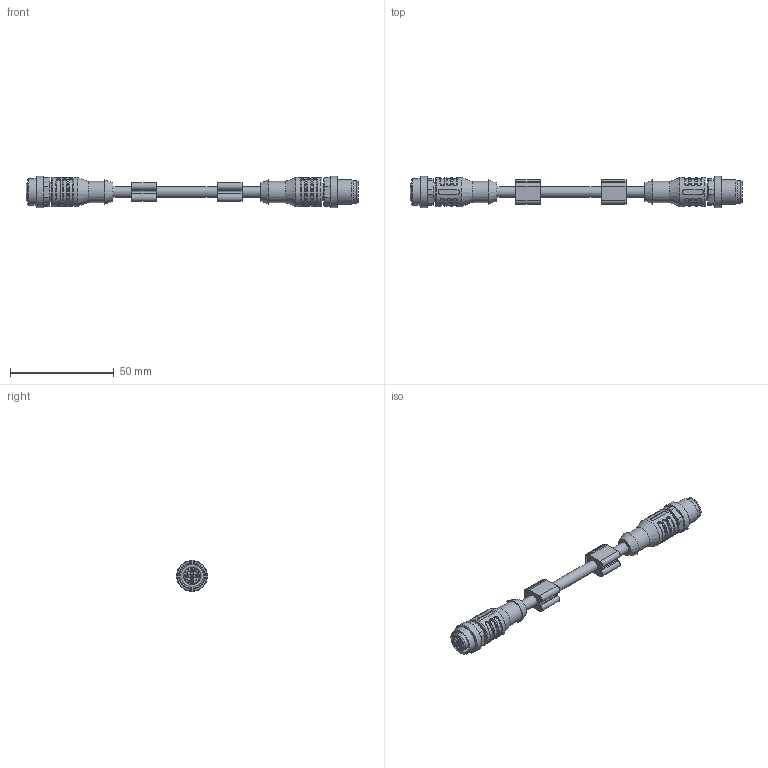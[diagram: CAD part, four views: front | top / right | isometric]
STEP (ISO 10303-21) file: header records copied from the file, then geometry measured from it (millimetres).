
FILE_DESCRIPTION(/* description */ (''),/* implementation_level */ '2;1');
FILE_NAME(/* name */ 'C:\#Vault-WorkDir\Konstruktions-Dokumente\Projekte\Zubehör allgemein\153-13639_L4_L4-xM-PUR.stp',/* time_stamp */ '2019-11-05T08:59:25+01:00',/* author */ ('SensoPart'),/* organization */ ('SensoPart'),/* preprocessor_version */ 'ST-DEVELOPER v17',/* originating_system */ 'Autodesk Inventor 2018',/* authorisation */ '');
FILE_SCHEMA (('AUTOMOTIVE_DESIGN { 1 0 10303 214 3 1 1 }'));
Length unit declared in the file: millimetre
Products named in the file (1): GH-ENG-0030270
Bounding box: 160 x 15 x 15 mm (x, y, z)
Volume: 12976.4 mm3; surface area: 7743.8 mm2
Topology: 1 solids, 1 shells, 578 faces, 1474 edges, 950 vertices
Faces by surface type: plane 199, cylinder 173, bspline 111, torus 63, cone 28, sphere 4
Full cylindrical faces by diameter (mm): 1 x4, 1.15 x4, 5.2 x3, 8.3 x1, 8.7 x2, 10.2 x2, 10.5 x1, 10.8 x1, 10.95 x1, 12 x1, 12.3 x1, 12.8 x1, 14 x2, 15 x2
Entity records: 27137 total; most frequent: CARTESIAN_POINT 12801, ORIENTED_EDGE 2940, DIRECTION 2812, EDGE_CURVE 1470, AXIS2_PLACEMENT_3D 1097, VERTEX_POINT 950, EDGE_LOOP 640, LINE 618
